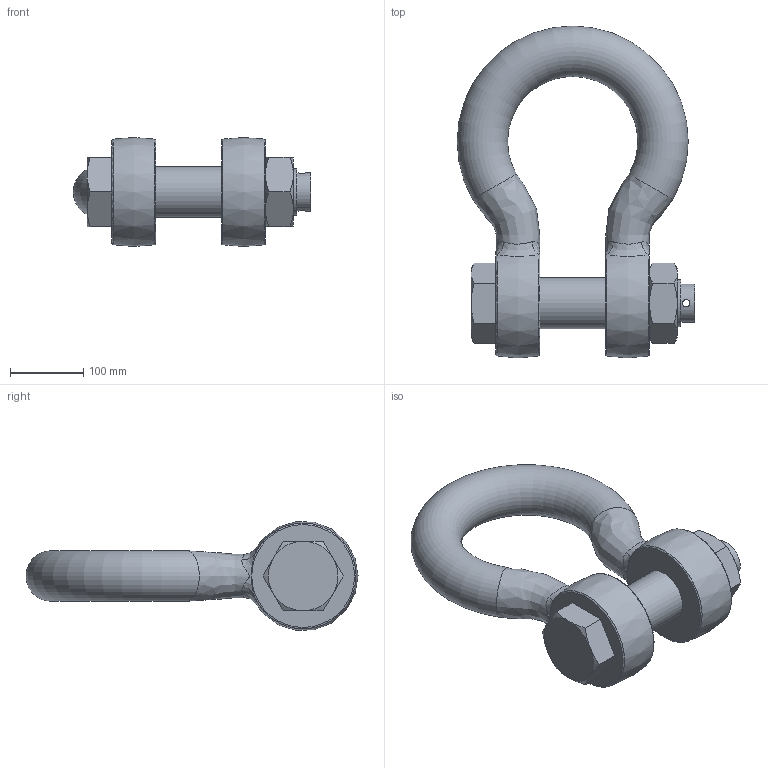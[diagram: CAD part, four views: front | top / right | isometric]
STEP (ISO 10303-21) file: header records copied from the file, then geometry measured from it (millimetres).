
FILE_DESCRIPTION(/* description */ (''),/* implementation_level */ '2;1');
FILE_NAME(/* name */ 'C:\Users\D\Documents\Inventor\HP\吊具\シャックル\BB_2\bb_60.stp',/* time_stamp */ '2024-11-20T10:47:14+09:00',/* author */ ('D'),/* organization */ (''),/* preprocessor_version */ 'ST-DEVELOPER v18',/* originating_system */ 'Autodesk Inventor 2020',/* authorisation */ '');
FILE_SCHEMA (('AUTOMOTIVE_DESIGN { 1 0 10303 214 3 1 1 }'));
Length unit declared in the file: millimetre
Products named in the file (3): bb_60; ba_6; sb_pin_10
Assembly tree (2 placements, depth 2):
  bb_60
    ba_6
    sb_pin_10
Bounding box: 325 x 454 x 148.95 mm (x, y, z)
Volume: 5552185.2 mm3; surface area: 390043.9 mm2
Topology: 4 solids, 4 shells, 69 faces, 175 edges, 113 vertices
Faces by surface type: plane 26, cone 19, bspline 12, cylinder 7, torus 5
Full cylindrical faces by diameter (mm): 10 x1, 52 x1, 64 x2, 70 x1, 72 x2
Entity records: 4041 total; most frequent: CARTESIAN_POINT 2432, ORIENTED_EDGE 342, DIRECTION 293, EDGE_CURVE 171, AXIS2_PLACEMENT_3D 133, VERTEX_POINT 113, EDGE_LOOP 78, CIRCLE 71
